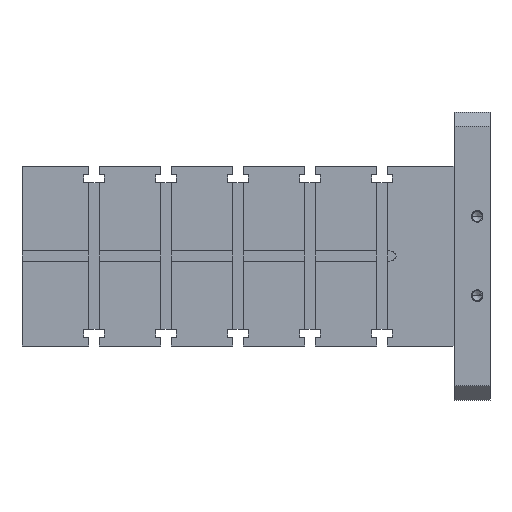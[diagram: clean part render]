
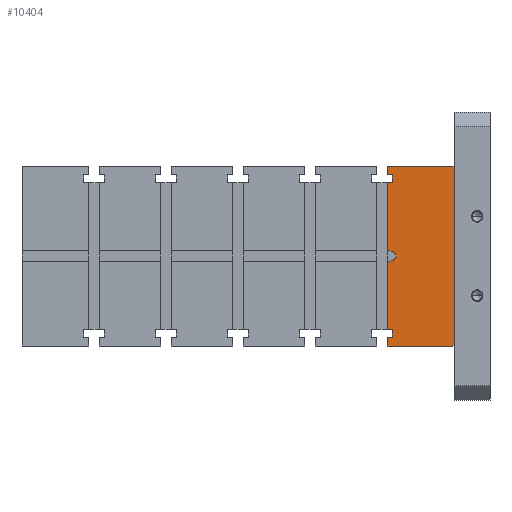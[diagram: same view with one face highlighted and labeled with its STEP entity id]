
A CAD part, left-side view. The second image highlights one B-rep face of the part: STEP entity #10404.
In plain terms, the highlighted planar face has unit normal (-1, 0, 0).
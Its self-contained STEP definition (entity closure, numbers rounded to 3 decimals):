
#187=DIRECTION('',(0.,1.,0.));
#188=VECTOR('',#187,93.);
#189=CARTESIAN_POINT('',(-125.,25.,125.));
#190=LINE('',#189,#188);
#915=DIRECTION('',(0.,-1.,0.));
#916=VECTOR('',#915,4.);
#917=CARTESIAN_POINT('',(-125.,118.,-7.));
#918=LINE('',#917,#916);
#919=DIRECTION('',(0.,-1.,0.));
#920=VECTOR('',#919,4.);
#921=CARTESIAN_POINT('',(-125.,118.,7.));
#922=LINE('',#921,#920);
#923=DIRECTION('',(0.,0.,1.));
#924=VECTOR('',#923,95.);
#925=CARTESIAN_POINT('',(-125.,118.,7.));
#926=LINE('',#925,#924);
#927=DIRECTION('',(0.,1.,0.));
#928=VECTOR('',#927,7.);
#929=CARTESIAN_POINT('',(-125.,111.,102.));
#930=LINE('',#929,#928);
#931=DIRECTION('',(0.,0.,-1.));
#932=VECTOR('',#931,11.);
#933=CARTESIAN_POINT('',(-125.,111.,113.));
#934=LINE('',#933,#932);
#935=DIRECTION('',(0.,-1.,0.));
#936=VECTOR('',#935,7.);
#937=CARTESIAN_POINT('',(-125.,118.,113.));
#938=LINE('',#937,#936);
#939=DIRECTION('',(0.,0.,-1.));
#940=VECTOR('',#939,12.);
#941=CARTESIAN_POINT('',(-125.,118.,125.));
#942=LINE('',#941,#940);
#943=DIRECTION('',(0.,1.,0.));
#944=VECTOR('',#943,93.);
#945=CARTESIAN_POINT('',(-125.,25.,-125.));
#946=LINE('',#945,#944);
#947=DIRECTION('',(0.,0.,1.));
#948=VECTOR('',#947,12.);
#949=CARTESIAN_POINT('',(-125.,118.,-125.));
#950=LINE('',#949,#948);
#951=DIRECTION('',(0.,-1.,0.));
#952=VECTOR('',#951,7.);
#953=CARTESIAN_POINT('',(-125.,118.,-113.));
#954=LINE('',#953,#952);
#955=DIRECTION('',(0.,0.,1.));
#956=VECTOR('',#955,11.);
#957=CARTESIAN_POINT('',(-125.,111.,-113.));
#958=LINE('',#957,#956);
#959=DIRECTION('',(0.,1.,0.));
#960=VECTOR('',#959,7.);
#961=CARTESIAN_POINT('',(-125.,111.,-102.));
#962=LINE('',#961,#960);
#963=DIRECTION('',(0.,0.,1.));
#964=VECTOR('',#963,95.);
#965=CARTESIAN_POINT('',(-125.,118.,-102.));
#966=LINE('',#965,#964);
#1415=CARTESIAN_POINT('',(-125.,114.,2.));
#1416=DIRECTION('',(1.,0.,0.));
#1417=DIRECTION('',(0.,-0.975,-0.222));
#1418=AXIS2_PLACEMENT_3D('',#1415,#1416,#1417);
#1478=CARTESIAN_POINT('',(-125.,114.,-2.));
#1479=DIRECTION('',(1.,0.,0.));
#1480=DIRECTION('',(0.,0.,1.));
#1481=AXIS2_PLACEMENT_3D('',#1478,#1479,#1480);
#5287=DIRECTION('',(0.,0.,1.));
#5288=VECTOR('',#5287,250.);
#5289=CARTESIAN_POINT('',(-125.,25.,-125.));
#5290=LINE('',#5289,#5288);
#6877=CARTESIAN_POINT('',(-125.,25.,125.));
#6879=VERTEX_POINT('',#6877);
#6883=CARTESIAN_POINT('',(-125.,25.,-125.));
#6884=VERTEX_POINT('',#6883);
#7163=CARTESIAN_POINT('',(-125.,118.,125.));
#7164=CARTESIAN_POINT('',(-125.,118.,113.));
#7165=VERTEX_POINT('',#7163);
#7166=VERTEX_POINT('',#7164);
#7167=CARTESIAN_POINT('',(-125.,111.,113.));
#7168=VERTEX_POINT('',#7167);
#7169=CARTESIAN_POINT('',(-125.,111.,102.));
#7170=VERTEX_POINT('',#7169);
#7391=CARTESIAN_POINT('',(-125.,111.,-113.));
#7393=VERTEX_POINT('',#7391);
#7395=CARTESIAN_POINT('',(-125.,111.,-102.));
#7397=VERTEX_POINT('',#7395);
#7599=CARTESIAN_POINT('',(-125.,118.,-125.));
#7601=VERTEX_POINT('',#7599);
#7619=CARTESIAN_POINT('',(-125.,118.,102.));
#7621=VERTEX_POINT('',#7619);
#7849=CARTESIAN_POINT('',(-125.,118.,-113.));
#7850=VERTEX_POINT('',#7849);
#7851=CARTESIAN_POINT('',(-125.,118.,-102.));
#7852=VERTEX_POINT('',#7851);
#8479=CARTESIAN_POINT('',(-125.,118.,7.));
#8481=VERTEX_POINT('',#8479);
#8485=CARTESIAN_POINT('',(-125.,118.,-7.));
#8486=VERTEX_POINT('',#8485);
#8523=CARTESIAN_POINT('',(-125.,114.,-7.));
#8525=VERTEX_POINT('',#8523);
#8529=CARTESIAN_POINT('',(-125.,114.,7.));
#8530=VERTEX_POINT('',#8529);
#8533=CARTESIAN_POINT('',(-125.,105.225,0.));
#8534=VERTEX_POINT('',#8533);
#10369=CARTESIAN_POINT('',(-125.,25.,-125.));
#10370=DIRECTION('',(-1.,0.,0.));
#10371=DIRECTION('',(0.,0.,1.));
#10372=AXIS2_PLACEMENT_3D('',#10369,#10370,#10371);
#10373=PLANE('',#10372);
#10375=ORIENTED_EDGE('',*,*,#10374,.T.);
#10377=ORIENTED_EDGE('',*,*,#10376,.F.);
#10379=ORIENTED_EDGE('',*,*,#10378,.F.);
#10381=ORIENTED_EDGE('',*,*,#10380,.F.);
#10383=ORIENTED_EDGE('',*,*,#10382,.T.);
#10385=ORIENTED_EDGE('',*,*,#10384,.F.);
#10386=ORIENTED_EDGE('',*,*,#10170,.F.);
#10387=ORIENTED_EDGE('',*,*,#10336,.F.);
#10388=ORIENTED_EDGE('',*,*,#9798,.F.);
#10389=ORIENTED_EDGE('',*,*,#9451,.F.);
#10391=ORIENTED_EDGE('',*,*,#10390,.F.);
#10393=ORIENTED_EDGE('',*,*,#10392,.T.);
#10395=ORIENTED_EDGE('',*,*,#10394,.T.);
#10397=ORIENTED_EDGE('',*,*,#10396,.T.);
#10398=ORIENTED_EDGE('',*,*,#10178,.T.);
#10399=ORIENTED_EDGE('',*,*,#10221,.T.);
#10401=ORIENTED_EDGE('',*,*,#10400,.T.);
#10402=EDGE_LOOP('',(#10375,#10377,#10379,#10381,#10383,#10385,#10386,#10387,
#10388,#10389,#10391,#10393,#10395,#10397,#10398,#10399,#10401));
#10403=FACE_OUTER_BOUND('',#10402,.F.);
#10404=ADVANCED_FACE('',(#10403),#10373,.T.);
#1419=CIRCLE('',#1418,9.);
#1482=CIRCLE('',#1481,9.);
#9451=EDGE_CURVE('',#6879,#7165,#190,.T.);
#9798=EDGE_CURVE('',#7165,#7166,#942,.T.);
#10170=EDGE_CURVE('',#7168,#7170,#934,.T.);
#10178=EDGE_CURVE('',#7393,#7397,#958,.T.);
#10221=EDGE_CURVE('',#7397,#7852,#962,.T.);
#10336=EDGE_CURVE('',#7166,#7168,#938,.T.);
#10374=EDGE_CURVE('',#8486,#8525,#918,.T.);
#10376=EDGE_CURVE('',#8534,#8525,#1419,.T.);
#10378=EDGE_CURVE('',#8530,#8534,#1482,.T.);
#10380=EDGE_CURVE('',#8481,#8530,#922,.T.);
#10382=EDGE_CURVE('',#8481,#7621,#926,.T.);
#10384=EDGE_CURVE('',#7170,#7621,#930,.T.);
#10390=EDGE_CURVE('',#6884,#6879,#5290,.T.);
#10392=EDGE_CURVE('',#6884,#7601,#946,.T.);
#10394=EDGE_CURVE('',#7601,#7850,#950,.T.);
#10396=EDGE_CURVE('',#7850,#7393,#954,.T.);
#10400=EDGE_CURVE('',#7852,#8486,#966,.T.);
